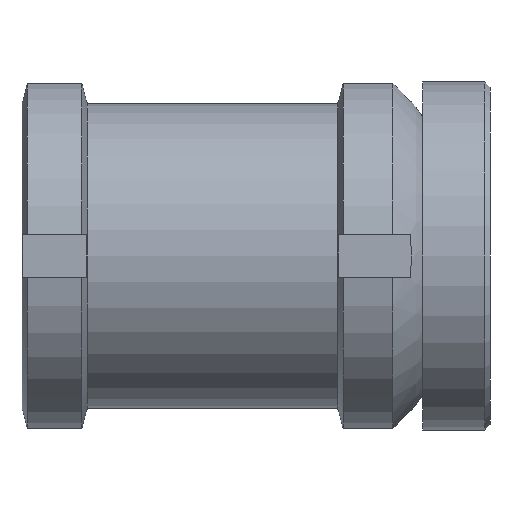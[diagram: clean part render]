
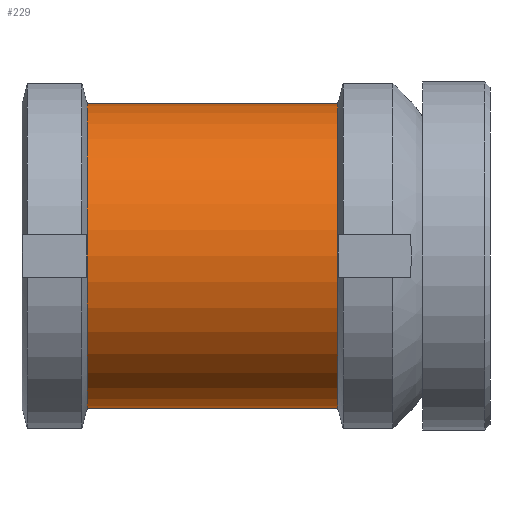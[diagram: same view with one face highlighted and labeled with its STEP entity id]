
A CAD part, front view. The second image highlights one B-rep face of the part: STEP entity #229.
In plain terms, the highlighted cylindrical face has radius 14 mm (diameter 28 mm), a full revolution.
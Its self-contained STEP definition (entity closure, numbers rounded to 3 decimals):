
#229 = ADVANCED_FACE( '', ( #322, #323 ), #324, .T. );
#322 = FACE_OUTER_BOUND( '', #474, .T. );
#323 = FACE_OUTER_BOUND( '', #475, .T. );
#324 = CYLINDRICAL_SURFACE( '', #476, 14. );
#474 = EDGE_LOOP( '', ( #749 ) );
#475 = EDGE_LOOP( '', ( #750 ) );
#476 = AXIS2_PLACEMENT_3D( '', #751, #752, #753 );
#749 = ORIENTED_EDGE( '', *, *, #1020, .F. );
#750 = ORIENTED_EDGE( '', *, *, #1040, .T. );
#751 = CARTESIAN_POINT( '', ( 0., 0., 0. ) );
#752 = DIRECTION( '', ( 0., 1., 0. ) );
#753 = DIRECTION( '', ( 0., 0., -1. ) );
#1020 = EDGE_CURVE( '', #1161, #1161, #1162, .T. );
#1040 = EDGE_CURVE( '', #1193, #1193, #1194, .T. );
#1161 = VERTEX_POINT( '', #1443 );
#1162 = CIRCLE( '', #1444, 14. );
#1193 = VERTEX_POINT( '', #1519 );
#1194 = CIRCLE( '', #1520, 14. );
#1443 = CARTESIAN_POINT( '', ( 0., 6., -14. ) );
#1444 = AXIS2_PLACEMENT_3D( '', #1778, #1779, #1780 );
#1519 = CARTESIAN_POINT( '', ( 0., 29., -14. ) );
#1520 = AXIS2_PLACEMENT_3D( '', #1795, #1796, #1797 );
#1778 = CARTESIAN_POINT( '', ( 0., 6., 0. ) );
#1779 = DIRECTION( '', ( 0., -1., 0. ) );
#1780 = DIRECTION( '', ( 0., 0., -1. ) );
#1795 = CARTESIAN_POINT( '', ( 0., 29., 0. ) );
#1796 = DIRECTION( '', ( 0., -1., 0. ) );
#1797 = DIRECTION( '', ( 0., 0., -1. ) );
